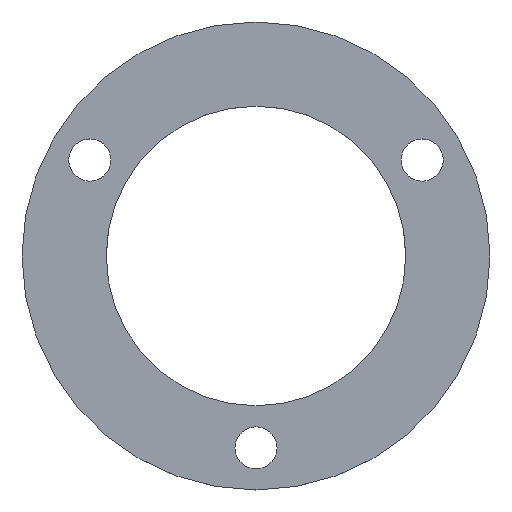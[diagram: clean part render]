
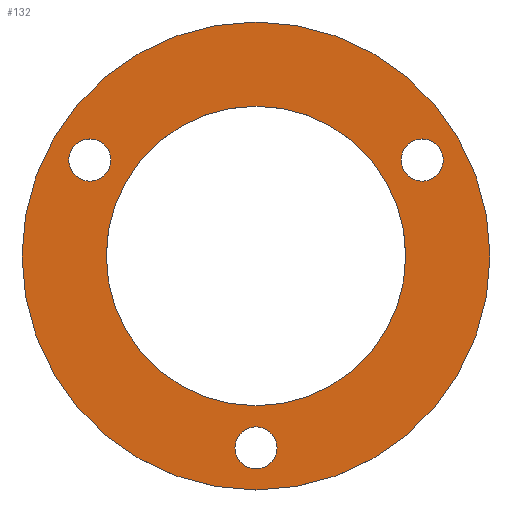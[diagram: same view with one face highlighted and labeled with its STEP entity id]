
A CAD part, top view. The second image highlights one B-rep face of the part: STEP entity #132.
In plain terms, the highlighted planar face has unit normal (0, 0, 1).
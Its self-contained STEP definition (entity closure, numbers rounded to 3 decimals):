
#15=FACE_BOUND('',#38,.T.);
#16=FACE_BOUND('',#39,.T.);
#17=FACE_BOUND('',#40,.T.);
#18=FACE_BOUND('',#41,.T.);
#23=PLANE('',#172);
#30=FACE_OUTER_BOUND('',#37,.T.);
#37=EDGE_LOOP('',(#112));
#38=EDGE_LOOP('',(#113));
#39=EDGE_LOOP('',(#114));
#40=EDGE_LOOP('',(#115));
#41=EDGE_LOOP('',(#116));
#57=CIRCLE('',#158,2.25);
#59=CIRCLE('',#161,2.25);
#61=CIRCLE('',#164,2.25);
#63=CIRCLE('',#167,16.);
#65=CIRCLE('',#170,25.);
#67=VERTEX_POINT('',#217);
#69=VERTEX_POINT('',#223);
#71=VERTEX_POINT('',#229);
#73=VERTEX_POINT('',#235);
#75=VERTEX_POINT('',#241);
#77=EDGE_CURVE('',#67,#67,#57,.T.);
#80=EDGE_CURVE('',#69,#69,#59,.T.);
#83=EDGE_CURVE('',#71,#71,#61,.T.);
#86=EDGE_CURVE('',#73,#73,#63,.T.);
#89=EDGE_CURVE('',#75,#75,#65,.T.);
#112=ORIENTED_EDGE('',*,*,#89,.T.);
#113=ORIENTED_EDGE('',*,*,#77,.T.);
#114=ORIENTED_EDGE('',*,*,#80,.T.);
#115=ORIENTED_EDGE('',*,*,#83,.T.);
#116=ORIENTED_EDGE('',*,*,#86,.T.);
#132=ADVANCED_FACE('',(#30,#15,#16,#17,#18),#23,.T.);
#158=AXIS2_PLACEMENT_3D('',#218,#178,#179);
#161=AXIS2_PLACEMENT_3D('',#224,#185,#186);
#164=AXIS2_PLACEMENT_3D('',#230,#192,#193);
#167=AXIS2_PLACEMENT_3D('',#236,#199,#200);
#170=AXIS2_PLACEMENT_3D('',#242,#206,#207);
#172=AXIS2_PLACEMENT_3D('',#246,#211,#212);
#178=DIRECTION('center_axis',(0.,0.,-1.));
#179=DIRECTION('ref_axis',(-0.5,-0.866,0.));
#185=DIRECTION('center_axis',(0.,0.,-1.));
#186=DIRECTION('ref_axis',(-0.5,0.866,0.));
#192=DIRECTION('center_axis',(0.,0.,-1.));
#193=DIRECTION('ref_axis',(1.,0.,0.));
#199=DIRECTION('center_axis',(0.,0.,-1.));
#200=DIRECTION('ref_axis',(-1.,0.,0.));
#206=DIRECTION('center_axis',(0.,0.,1.));
#207=DIRECTION('ref_axis',(1.,0.,0.));
#211=DIRECTION('center_axis',(0.,0.,1.));
#212=DIRECTION('ref_axis',(1.,0.,0.));
#217=CARTESIAN_POINT('',(-16.629,12.199,1.));
#218=CARTESIAN_POINT('Origin',(-17.754,10.25,1.));
#223=CARTESIAN_POINT('',(18.879,8.301,1.));
#224=CARTESIAN_POINT('Origin',(17.754,10.25,1.));
#229=CARTESIAN_POINT('',(-2.25,-20.5,1.));
#230=CARTESIAN_POINT('Origin',(0.,-20.5,1.));
#235=CARTESIAN_POINT('',(16.,0.,1.));
#236=CARTESIAN_POINT('Origin',(0.,0.,1.));
#241=CARTESIAN_POINT('',(-25.,0.,1.));
#242=CARTESIAN_POINT('Origin',(0.,0.,1.));
#246=CARTESIAN_POINT('Origin',(0.,0.,1.));
